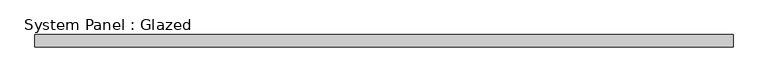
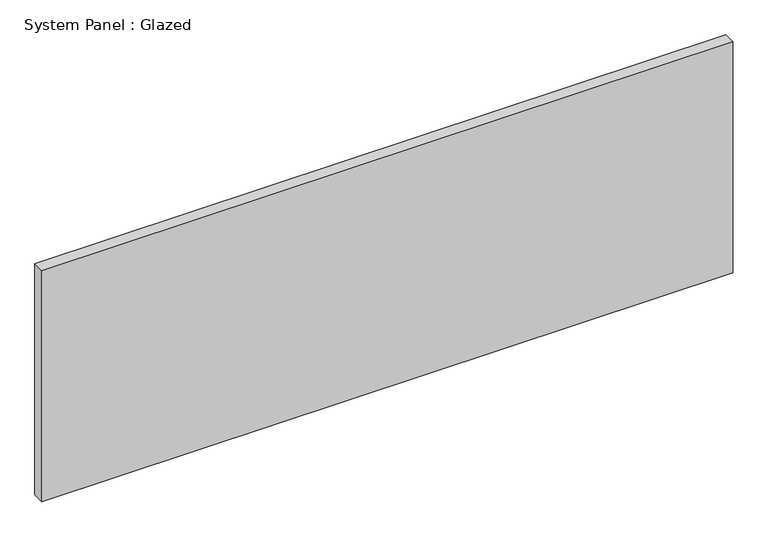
"""IFC4 building model written with IfcOpenShell, lengths in millimetres: plate geometry, System Panel : Glazed."""

from ifc_helpers import new_model, si_unit, origin, origin_with_axes, place, context, project, spatial, polyline, outline, extrude, source, transform, mapped, element, save


def system_panel_glazed_0650afbd(model_context):
    return source(origin(), model_context, "Body", "SweptSolid", [
        extrude(outline(polyline([(714.9093139, 24.5), (-714.9093139, 24.5), (-714.9093139, 49.5), (714.9093139, 49.5), (714.9093139, 24.5)])), origin_with_axes(), (0.0, 0.0, 1.0), 505.0),
    ])


if __name__ == "__main__":
    model = new_model("IFC4")
    model_context = context("Model", 3, world=origin())
    ifc_project = project(units=[si_unit("LENGTHUNIT", "METRE", prefix="MILLI")], contexts=[model_context])
    site = spatial("IfcSite", under=ifc_project)
    building = spatial("IfcBuilding", under=site)
    placement = place(None, origin())
    system_panel_glazed_shape = system_panel_glazed_0650afbd(model_context)
    element("IfcPlate", 1, ObjectType="System Panel : Glazed", at=placement, inside=building, context=model_context, shape_type="MappedRepresentation", body=[
        mapped(system_panel_glazed_shape, transform((0.0, 0.0, 0.0), x_axis=(1.0, 0.0, 0.0), y_axis=(0.0, 1.0, 0.0), z_axis=(0.0, 0.0, 1.0))),
    ])
    save(model, "model.ifc")
